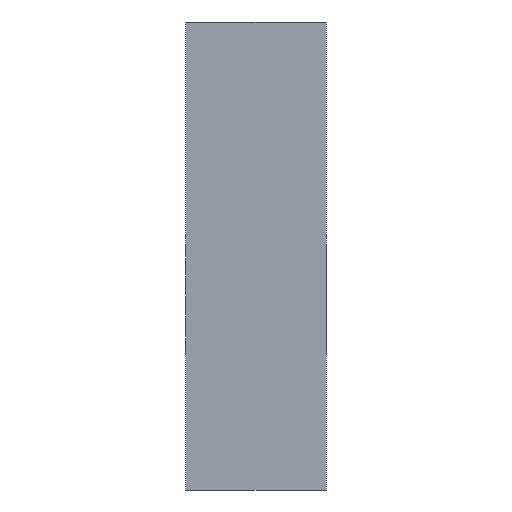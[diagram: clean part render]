
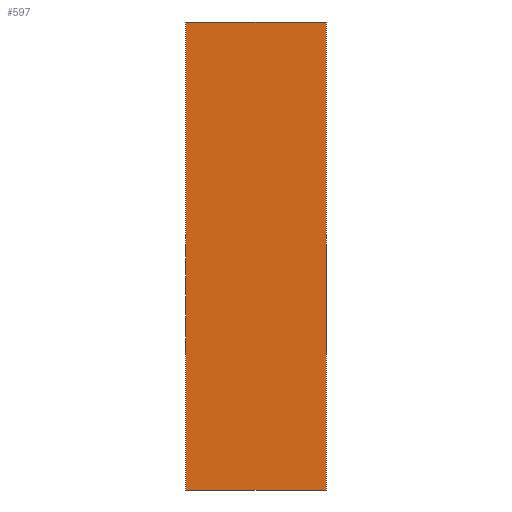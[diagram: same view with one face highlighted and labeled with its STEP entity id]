
A CAD part, front view. The second image highlights one B-rep face of the part: STEP entity #597.
In plain terms, the highlighted planar face has unit normal (0, -1, 0).
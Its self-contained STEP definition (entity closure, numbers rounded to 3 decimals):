
#61=CARTESIAN_POINT('Vertex',(30.,0.,0.)) ;
#77=CARTESIAN_POINT('Vertex',(30.,0.,100.)) ;
#80=CARTESIAN_POINT('Line Origine',(30.,0.,50.)) ;
#514=CARTESIAN_POINT('Line Origine',(15.,0.,0.)) ;
#518=CARTESIAN_POINT('Vertex',(0.,0.,0.)) ;
#566=CARTESIAN_POINT('Vertex',(0.,0.,100.)) ;
#569=CARTESIAN_POINT('Line Origine',(15.,0.,100.)) ;
#581=CARTESIAN_POINT('Axis2P3D Location',(0.,0.,100.)) ;
#586=CARTESIAN_POINT('Line Origine',(0.,0.,50.)) ;
#81=DIRECTION('Vector Direction',(0.,0.,-1.)) ;
#515=DIRECTION('Vector Direction',(1.,0.,0.)) ;
#570=DIRECTION('Vector Direction',(1.,0.,0.)) ;
#582=DIRECTION('Axis2P3D Direction',(0.,1.,0.)) ;
#583=DIRECTION('Axis2P3D XDirection',(0.,-0.,1.)) ;
#587=DIRECTION('Vector Direction',(0.,0.,-1.)) ;
#584=AXIS2_PLACEMENT_3D('Plane Axis2P3D',#581,#582,#583) ;
#592=ORIENTED_EDGE('',*,*,#520,.T.) ;
#593=ORIENTED_EDGE('',*,*,#84,.F.) ;
#594=ORIENTED_EDGE('',*,*,#573,.F.) ;
#595=ORIENTED_EDGE('',*,*,#590,.T.) ;
#82=VECTOR('Line Direction',#81,1.) ;
#516=VECTOR('Line Direction',#515,1.) ;
#571=VECTOR('Line Direction',#570,1.) ;
#588=VECTOR('Line Direction',#587,1.) ;
#597=ADVANCED_FACE('A612-100-4001',(#596),#585,.F.) ;
#84=EDGE_CURVE('',#78,#62,#83,.T.) ;
#520=EDGE_CURVE('',#519,#62,#517,.T.) ;
#573=EDGE_CURVE('',#567,#78,#572,.T.) ;
#590=EDGE_CURVE('',#567,#519,#589,.T.) ;
#591=EDGE_LOOP('',(#592,#593,#594,#595)) ;
#596=FACE_OUTER_BOUND('',#591,.T.) ;
#83=LINE('Line',#80,#82) ;
#517=LINE('Line',#514,#516) ;
#572=LINE('Line',#569,#571) ;
#589=LINE('Line',#586,#588) ;
#585=PLANE('Plane',#584) ;
#62=VERTEX_POINT('',#61) ;
#78=VERTEX_POINT('',#77) ;
#519=VERTEX_POINT('',#518) ;
#567=VERTEX_POINT('',#566) ;
